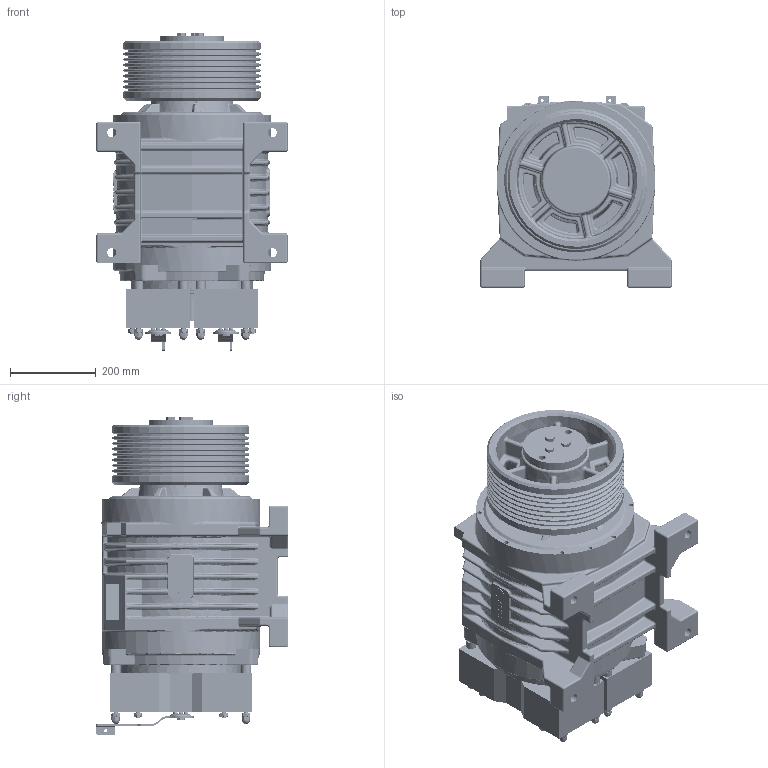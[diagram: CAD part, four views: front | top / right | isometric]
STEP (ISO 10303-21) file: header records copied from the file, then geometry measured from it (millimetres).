
FILE_DESCRIPTION (( 'STEP AP214' ), '1' );
FILE_NAME ('QS532125200.STEP', '2026-01-02T06:48:32', ( '' ), ( '' ), 'SwSTEP 2.0', 'SolidWorks 2023', '' );
FILE_SCHEMA (( 'AUTOMOTIVE_DESIGN' ));
Length unit declared in the file: millimetre
Products named in the file (1): QS532125200
Bounding box: 445.91 x 447.8 x 741.79 mm (x, y, z)
Surface area: 3347473.6 mm2 (no closed solid volume)
Topology: 0 solids, 67 shells, 5053 faces, 12257 edges, 6997 vertices
Faces by surface type: cylinder 1387, plane 1107, bspline 986, cone 682, sphere 459, torus 432
Entity records: 181768 total; most frequent: CARTESIAN_POINT 73636, ORIENTED_EDGE 23378, DIRECTION 21715, EDGE_CURVE 11713, AXIS2_PLACEMENT_3D 9103, VERTEX_POINT 6962, EDGE_LOOP 5381, ADVANCED_FACE 5053
